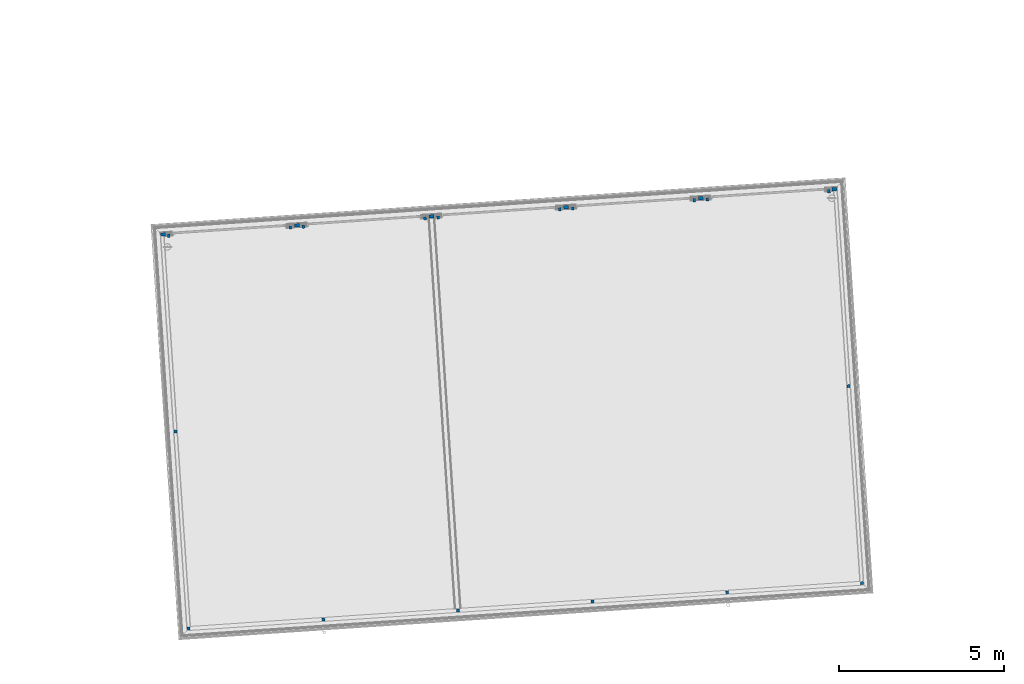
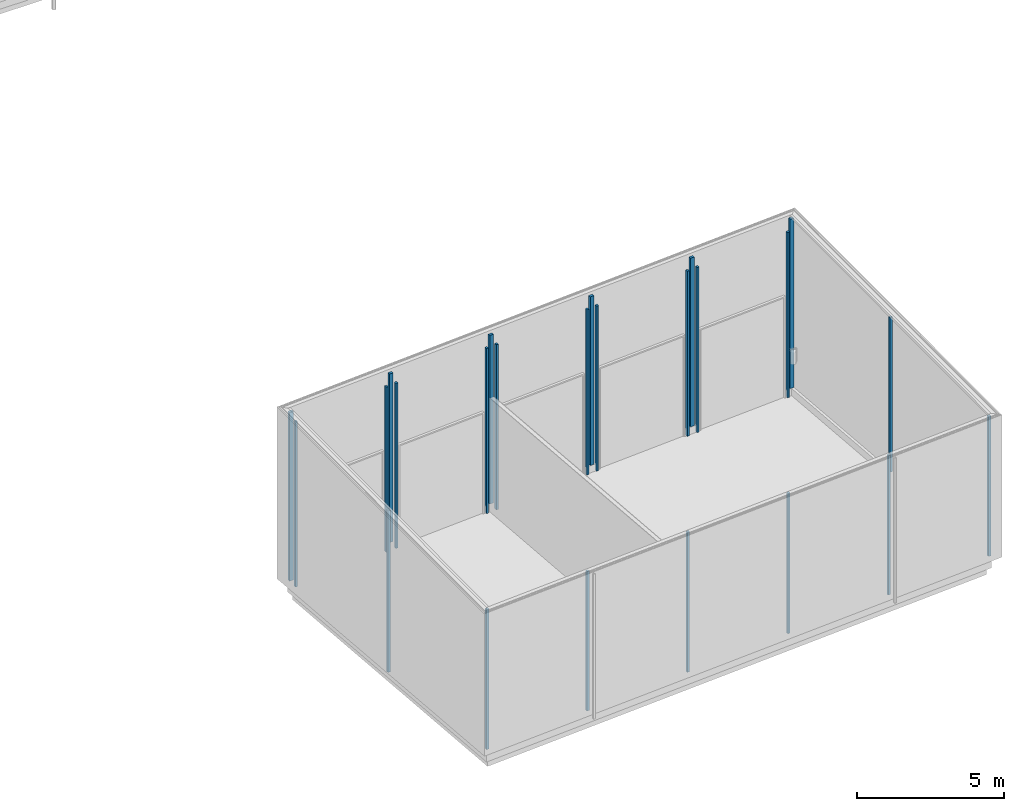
# One storey, part 1 of 112: 24 columns.
"""IFC2X3 building model written with IfcOpenShell, lengths in millimetres."""

from ifc_helpers import new_model, entity, si_unit, converted_unit, derived_unit, money_unit, direction, frame, origin_with_axes, origin_2d_with_axis, place, context, subcontext, project, spatial, rectangle, extrude, material, type_object, element, save


model = new_model("IFC2X3")

# Units and contexts
model_context = context("Model", 3, precision=0.01, world=origin_with_axes(), true_north=direction((0.0, 1.0)))
body_context = subcontext(model_context, "Body", "Model", "MODEL_VIEW")
ifc_project = project(units=[si_unit("LENGTHUNIT", "METRE", prefix="MILLI"), si_unit("AREAUNIT", "SQUARE_METRE"), si_unit("VOLUMEUNIT", "CUBIC_METRE"), converted_unit("PLANEANGLEUNIT", "DEGREE", entity("IfcPlaneAngleMeasure", 0.0174532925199), si_unit("PLANEANGLEUNIT", "RADIAN"), dimensions=[0, 0, 0, 0, 0, 0, 0]), si_unit("SOLIDANGLEUNIT", "STERADIAN"), money_unit("EUR"), converted_unit("TIMEUNIT", "Year", entity("IfcTimeMeasure", 31556926.0), si_unit("TIMEUNIT", "SECOND"), dimensions=[0, 0, 1, 0, 0, 0, 0]), si_unit("MASSUNIT", "GRAM", prefix="KILO"), si_unit("THERMODYNAMICTEMPERATUREUNIT", "DEGREE_CELSIUS"), si_unit("LUMINOUSINTENSITYUNIT", "LUMEN"), si_unit("ENERGYUNIT", "JOULE", prefix="MEGA"), derived_unit("THERMALCONDUCTANCEUNIT", [(si_unit("POWERUNIT", "WATT"), 1), (si_unit("LENGTHUNIT", "METRE"), -1), (si_unit("THERMODYNAMICTEMPERATUREUNIT", "KELVIN"), -1)]), derived_unit("SPECIFICHEATCAPACITYUNIT", [(si_unit("ENERGYUNIT", "JOULE"), 1), (si_unit("MASSUNIT", "GRAM", prefix="KILO"), -1), (si_unit("THERMODYNAMICTEMPERATUREUNIT", "KELVIN"), -1)]), derived_unit("MASSDENSITYUNIT", [(si_unit("MASSUNIT", "GRAM", prefix="KILO"), 1), (si_unit("VOLUMEUNIT", "CUBIC_METRE"), -1)])], contexts=[model_context])

# Site, building, storey
site_placement = place(None, origin_with_axes())
site = spatial("IfcSite", under=ifc_project, at=site_placement, Name="Politse- ja Piirivalveameti ning Päästeameti ühishoone", CompositionType="ELEMENT")
building_placement = place(site_placement, origin_with_axes())
building = spatial("IfcBuilding", under=site, at=building_placement, Name="Politse- ja Piirivalveameti ning Päästeameti ühishoone", CompositionType="ELEMENT")
storey_placement = place(building_placement, origin_with_axes())
storey = spatial("IfcBuildingStorey", under=building, at=storey_placement, Name="Esimene korrus", CompositionType="ELEMENT", Elevation=0.0)

# Columns
ifc_material = material(Name="KON-00_GENEERILINE - KONSTRUKTSIOON")
column_type_1 = type_object("IfcColumnType", Name="KON-00_GENEERILINE - KONSTRUKTSIOON 90 x 90", PredefinedType="COLUMN")
column_1_placement = place(storey_placement, frame((23022.3533884, -47111.4957489, 300.0), z_axis=(0.0, 0.0, 1.0), x_axis=(0.997742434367, 0.0671567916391, 0.0)))
element("IfcColumn", 1, at=column_1_placement, inside=storey, type_object=column_type_1, material=ifc_material, Name="POST", ObjectType="COLUMN", context=body_context, shape_type="SweptSolid", body=[
    extrude(rectangle(XDim=90.0, YDim=90.0, at=origin_2d_with_axis()), origin_with_axes(), (0.0, 0.0, 1.0), 5804.54438722),
])
column_2_placement = place(storey_placement, frame((43476.0732693, -45734.7815219, 300.0), z_axis=(0.0, 0.0, 1.0), x_axis=(0.997742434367, 0.0671567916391, 0.0)))
element("IfcColumn", 2, at=column_2_placement, inside=storey, type_object=column_type_1, material=ifc_material, Name="POST", ObjectType="COLUMN", context=body_context, shape_type="SweptSolid", body=[
    extrude(rectangle(XDim=90.0, YDim=90.0, at=origin_2d_with_axis()), frame((0.0, 0.0, 0.0), z_axis=(0.0, 0.0, -1.0), x_axis=(-1.0, 0.0, 0.0)), (0.0, 0.0, -1.0), 5804.54438722),
])
column_3_placement = place(storey_placement, frame((43073.1325194, -39748.3269157, 300.0), z_axis=(0.0, 0.0, 1.0), x_axis=(0.997742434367, 0.0671567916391, 0.0)))
element("IfcColumn", 3, at=column_3_placement, inside=storey, type_object=column_type_1, material=ifc_material, Name="POST", ObjectType="COLUMN", context=body_context, shape_type="SweptSolid", body=[
    extrude(rectangle(XDim=90.0, YDim=90.0, at=origin_2d_with_axis()), frame((0.0, 0.0, 0.0), z_axis=(0.0, 0.0, -1.0), x_axis=(-1.0, 0.0, 0.0)), (0.0, 0.0, -1.0), 6407.91560118),
])
column_4_placement = place(storey_placement, frame((27113.0973693, -46836.1529032, 300.0), z_axis=(0.0, 0.0, 1.0), x_axis=(0.997742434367, 0.0671567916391, 0.0)))
element("IfcColumn", 4, at=column_4_placement, inside=storey, type_object=column_type_1, material=ifc_material, Name="POST", ObjectType="COLUMN", context=body_context, shape_type="SweptSolid", body=[
    extrude(rectangle(XDim=90.0, YDim=90.0, at=origin_2d_with_axis()), origin_with_axes(), (0.0, 0.0, 1.0), 5775.1367624),
])
for number, where, z_axis, x_axis, name in (
    (5, (31203.8413502, -46560.8100574, 300.0), (0.0, 0.0, 1.0), (0.997742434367, 0.0671567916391, 0.0), "POST"),
    (6, (35294.5853311, -46285.4672117, 300.0), (0.0, 0.0, 1.0), (0.997742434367, 0.0671567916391, 0.0), "POST"),
):
    element("IfcColumn", number, at=place(storey_placement, frame(where, z_axis=z_axis, x_axis=x_axis)), inside=storey, type_object=column_type_1, material=ifc_material, Name=name, ObjectType="COLUMN", context=body_context, shape_type="SweptSolid", body=[
        extrude(rectangle(XDim=90.0, YDim=90.0, at=origin_2d_with_axis()), origin_with_axes(), (0.0, 0.0, 1.0), 5804.54438722),
    ])
column_5_placement = place(storey_placement, frame((39385.329312, -46010.124366, 300.0), z_axis=(0.0, 0.0, 1.0), x_axis=(0.997742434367, 0.0671567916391, 0.0)))
element("IfcColumn", 7, at=column_5_placement, inside=storey, type_object=column_type_1, material=ifc_material, Name="POST", ObjectType="COLUMN", context=body_context, shape_type="SweptSolid", body=[
    extrude(rectangle(XDim=90.0, YDim=90.0, at=origin_2d_with_axis()), origin_with_axes(), (0.0, 0.0, 1.0), 5774.99002644),
])
column_6_placement = place(storey_placement, frame((22619.4126385, -41125.0411427, 5.0), z_axis=(0.0, 0.0, 1.0), x_axis=(0.997742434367, 0.0671567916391, 0.0)))
element("IfcColumn", 8, at=column_6_placement, inside=storey, type_object=column_type_1, material=ifc_material, Name="POST", ObjectType="COLUMN", context=body_context, shape_type="SweptSolid", body=[
    extrude(rectangle(XDim=90.0, YDim=90.0, at=origin_2d_with_axis()), origin_with_axes(), (0.0, 0.0, 1.0), 6695.0),
])
column_type_2 = type_object("IfcColumnType", Name="KON-00_GENEERILINE - KONSTRUKTSIOON 150 x 100", PredefinedType="COLUMN")
column_7_placement = place(storey_placement, frame((22246.4041617, -35136.5718327, 300.0), z_axis=(0.0, 0.0, 1.0), x_axis=(0.997742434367, 0.0671567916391, 0.0)))
element("IfcColumn", 9, at=column_7_placement, inside=storey, type_object=column_type_2, material=ifc_material, Name="POST", ObjectType="COLUMN", context=body_context, shape_type="SweptSolid", body=[
    extrude(rectangle(XDim=150.0, YDim=100.0, at=origin_2d_with_axis()), origin_with_axes(), (0.0, 0.0, 1.0), 6985.0871343),
])
column_8_placement = place(storey_placement, frame((42640.2594966, -33763.8870132, 300.0), z_axis=(0.0, 0.0, 1.0), x_axis=(0.997742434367, 0.0671567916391, 0.0)))
element("IfcColumn", 10, at=column_8_placement, inside=storey, type_object=column_type_2, material=ifc_material, Name="POST", ObjectType="COLUMN", context=body_context, shape_type="SweptSolid", body=[
    extrude(rectangle(XDim=150.0, YDim=100.0, at=origin_2d_with_axis()), frame((0.0, 0.0, 0.0), z_axis=(0.0, 0.0, -1.0), x_axis=(-1.0, 0.0, 0.0)), (0.0, 0.0, -1.0), 7011.78588148),
])
for number, where, z_axis, x_axis, name in (
    (11, (26310.4657972, -34863.0249422, 300.0), (0.0, 0.0, 1.0), (0.997742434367, 0.0671567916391, 0.0), "POST"),
    (12, (30401.2097781, -34587.6820965, 300.0), (0.0, 0.0, 1.0), (0.997742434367, 0.0671567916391, 0.0), "POST"),
    (13, (34491.953759, -34312.3392508, 300.0), (0.0, 0.0, 1.0), (0.997742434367, 0.0671567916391, 0.0), "POST"),
    (14, (38582.6977399, -34036.996405, 300.0), (0.0, 0.0, 1.0), (0.997742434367, 0.0671567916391, 0.0), "POST"),
):
    element("IfcColumn", number, at=place(storey_placement, frame(where, z_axis=z_axis, x_axis=x_axis)), inside=storey, type_object=column_type_2, material=ifc_material, Name=name, ObjectType="COLUMN", context=body_context, shape_type="SweptSolid", body=[
        extrude(rectangle(XDim=150.0, YDim=100.0, at=origin_2d_with_axis()), origin_with_axes(), (0.0, 0.0, 1.0), 6985.0871343),
    ])
column_type_3 = type_object("IfcColumnType", Name="KON-00_GENEERILINE - KONSTRUKTSIOON 80 x 100", PredefinedType="COLUMN")
for number, where, z_axis, x_axis, name in (
    (15, (26111.4337819, -34926.5346712, 0.0), (0.0, 0.0, 1.0), (-0.997742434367, -0.0671567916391, 0.0), "POST"),
    (16, (22419.5810101, -35175.02865, 0.0), (0.0, 0.0, 1.0), (-0.997742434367, -0.0671567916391, 0.0), "POST"),
    (17, (30202.1777629, -34651.1918254, 0.0), (0.0, 0.0, 1.0), (-0.997742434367, -0.0671567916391, 0.0), "POST"),
    (18, (26510.324991, -34899.6858043, 0.0), (0.0, 0.0, 1.0), (-0.997742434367, -0.0671567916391, 0.0), "POST"),
    (19, (34292.9217438, -34375.8489797, 0.0), (0.0, 0.0, 1.0), (-0.997742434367, -0.0671567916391, 0.0), "POST"),
    (20, (30601.0689719, -34624.3429585, 0.0), (0.0, 0.0, 1.0), (-0.997742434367, -0.0671567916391, 0.0), "POST"),
    (21, (38383.6657247, -34100.506134, 0.0), (0.0, 0.0, 1.0), (-0.997742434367, -0.0671567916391, 0.0), "POST"),
    (22, (34691.8129528, -34349.0001128, 0.0), (0.0, 0.0, 1.0), (-0.997742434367, -0.0671567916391, 0.0), "POST"),
    (23, (42474.4097056, -33825.1632883, 0.0), (0.0, 0.0, 1.0), (-0.997742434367, -0.0671567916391, 0.0), "POST"),
    (24, (38782.5569338, -34073.6572671, 0.0), (0.0, 0.0, 1.0), (-0.997742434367, -0.0671567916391, 0.0), "POST"),
):
    element("IfcColumn", number, at=place(storey_placement, frame(where, z_axis=z_axis, x_axis=x_axis)), inside=storey, type_object=column_type_3, material=ifc_material, Name=name, ObjectType="COLUMN", context=body_context, shape_type="SweptSolid", body=[
        extrude(rectangle(XDim=80.0, YDim=100.0, at=origin_2d_with_axis()), origin_with_axes(), (0.0, 0.0, 1.0), 6840.0),
    ])

save(model, "model.ifc")
